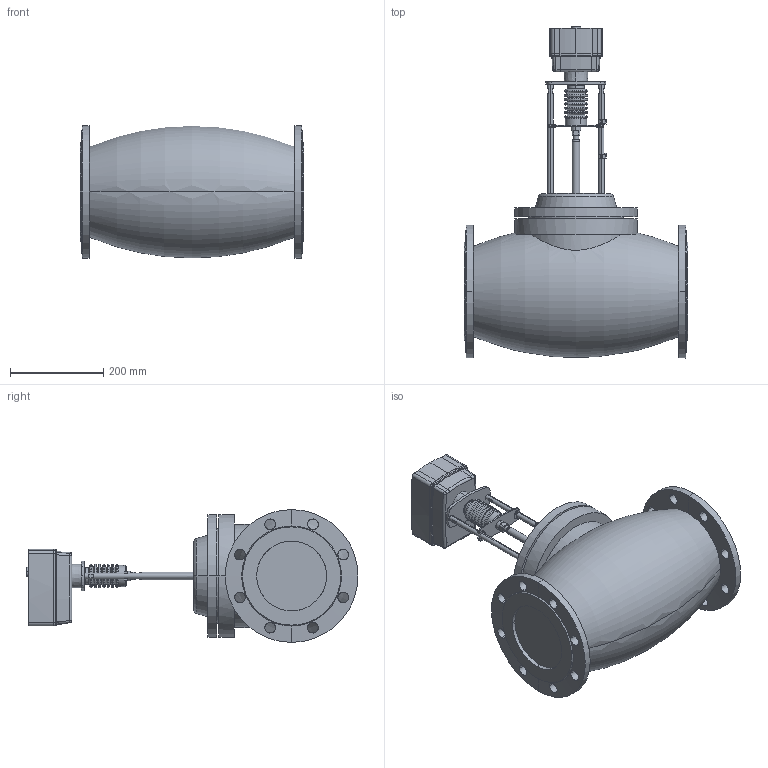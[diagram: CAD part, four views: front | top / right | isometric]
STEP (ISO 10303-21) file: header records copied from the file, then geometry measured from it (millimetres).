
FILE_DESCRIPTION (( 'STEP AP214' ), '1' );
FILE_NAME ('TRV-150-X-120.STEP', '2025-12-12T05:13:43', ( '' ), ( '' ), 'SwSTEP 2.0', 'SolidWorks 2023', '' );
FILE_SCHEMA (( 'AUTOMOTIVE_DESIGN' ));
Length unit declared in the file: millimetre
Products named in the file (1): TRV-150-X-120
Bounding box: 480 x 712.58 x 285 mm (x, y, z)
Volume: 29896136.1 mm3; surface area: 884068.2 mm2
Topology: 2 solids, 3 shells, 388 faces, 973 edges, 612 vertices
Faces by surface type: plane 146, cylinder 122, cone 60, torus 38, bspline 18, sphere 4
Entity records: 18277 total; most frequent: CARTESIAN_POINT 8973, ORIENTED_EDGE 1946, DIRECTION 1922, EDGE_CURVE 973, AXIS2_PLACEMENT_3D 744, VERTEX_POINT 612, EDGE_LOOP 451, LINE 434
